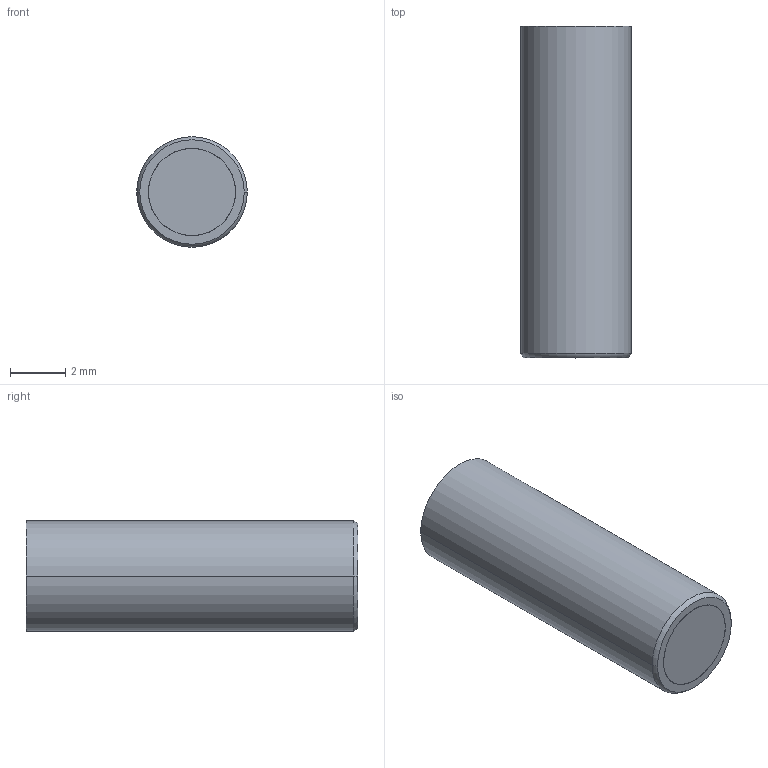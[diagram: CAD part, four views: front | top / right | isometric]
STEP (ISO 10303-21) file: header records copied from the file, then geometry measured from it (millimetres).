
FILE_DESCRIPTION (( 'STEP AP214' ), '1' );
FILE_NAME ('FA 042204-20.STEP', '2013-10-01T07:49:05', ( '' ), ( '' ), 'SwSTEP 2.0', 'SolidWorks 2011', '' );
FILE_SCHEMA (( 'AUTOMOTIVE_DESIGN' ));
Length unit declared in the file: millimetre
Products named in the file (6): IA 2275SF; FA 042200-1; FA 042200-3; FA 042204-20-1; FA 042200-2; FA 042204-20
Assembly tree (5 placements, depth 2):
  FA 042204-20
    IA 2275SF
    FA 042204-20-1
    FA 042200-2
    FA 042200-1
    FA 042200-3
Bounding box: 4 x 12 x 4 mm (x, y, z)
Volume: 127.2 mm3; surface area: 503.5 mm2
Topology: 5 solids, 5 shells, 185 faces, 450 edges, 293 vertices
Faces by surface type: cylinder 88, plane 77, cone 14, bspline 4, torus 2
Entity records: 8216 total; most frequent: CARTESIAN_POINT 3384, DIRECTION 1016, ORIENTED_EDGE 896, EDGE_CURVE 448, AXIS2_PLACEMENT_3D 387, VERTEX_POINT 293, LINE 242, VECTOR 242
